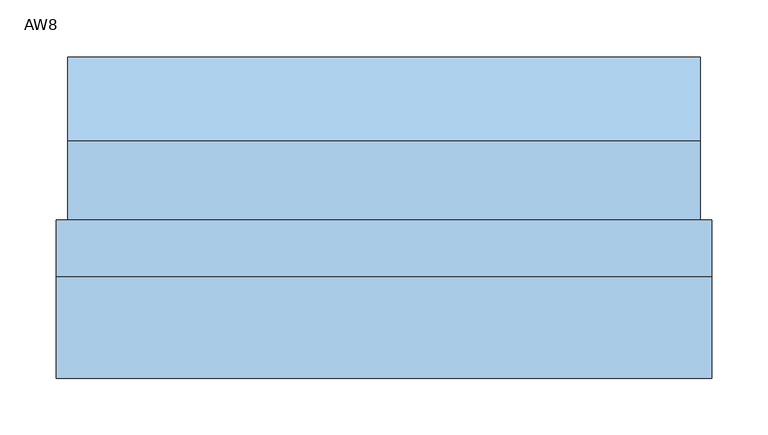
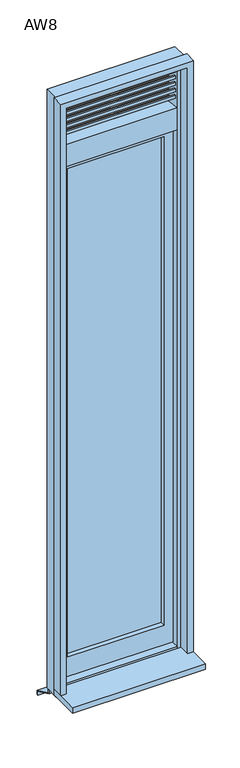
"""IFC4 building model written with IfcOpenShell, lengths in millimetres: window geometry, 営_段窓_FIX/ガラリ : AW8."""

from ifc_helpers import new_model, si_unit, frame, origin, place, context, project, spatial, polyline, outline, extrude, source, transform, mapped, element, save


def aw8_1742ed5c(model_context):
    return source(origin(), model_context, "Body", "SweptSolid", [
        extrude(outline(polyline([(70.0, 2623.2493654), (70.0, 2605.0), (65.0, 2605.0), (65.0, 2620.0), (20.0, 2640.0), (20.0, 2655.0), (25.0, 2655.0), (25.0, 2643.2493654), (70.0, 2623.2493654)])), frame((-250.0, 0.0, 0.0), z_axis=(1.0, 0.0, 0.0), x_axis=(0.0, 1.0, 0.0)), (0.0, 0.0, 1.0), 500.0),
        extrude(outline(polyline([(70.0, 2593.2493654), (70.0, 2575.0), (65.0, 2575.0), (65.0, 2590.0), (20.0, 2610.0), (20.0, 2625.0), (25.0, 2625.0), (25.0, 2613.2493654), (70.0, 2593.2493654)])), frame((-250.0, 0.0, 0.0), z_axis=(1.0, 0.0, 0.0), x_axis=(0.0, 1.0, 0.0)), (0.0, 0.0, 1.0), 500.0),
        extrude(outline(polyline([(70.0, 2563.2493654), (70.0, 2545.0), (65.0, 2545.0), (65.0, 2560.0), (20.0, 2580.0), (20.0, 2595.0), (25.0, 2595.0), (25.0, 2583.2493654), (70.0, 2563.2493654)])), frame((-250.0, 0.0, 0.0), z_axis=(1.0, 0.0, 0.0), x_axis=(0.0, 1.0, 0.0)), (0.0, 0.0, 1.0), 500.0),
        extrude(outline(polyline([(70.0, 2533.2493654), (70.0, 2515.0), (65.0, 2515.0), (65.0, 2530.0), (20.0, 2550.0), (20.0, 2565.0), (25.0, 2565.0), (25.0, 2553.2493654), (70.0, 2533.2493654)])), frame((-250.0, 0.0, 0.0), z_axis=(1.0, 0.0, 0.0), x_axis=(0.0, 1.0, 0.0)), (0.0, 0.0, 1.0), 500.0),
        extrude(outline(polyline([(70.0, 2653.2493654), (70.0, 2635.0), (65.0, 2635.0), (65.0, 2650.0), (20.0, 2670.0), (20.0, 2685.0), (25.0, 2685.0), (25.0, 2673.2493654), (70.0, 2653.2493654)])), frame((-250.0, 0.0, 0.0), z_axis=(1.0, 0.0, 0.0), x_axis=(0.0, 1.0, 0.0)), (0.0, 0.0, 1.0), 500.0),
        extrude(outline(polyline([(70.0, 2503.2493654), (70.0, 2485.0), (65.0, 2485.0), (65.0, 2500.0), (20.0, 2520.0), (20.0, 2535.0), (25.0, 2535.0), (25.0, 2523.2493654), (70.0, 2503.2493654)])), frame((-250.0, 0.0, 0.0), z_axis=(1.0, 0.0, 0.0), x_axis=(0.0, 1.0, 0.0)), (0.0, 0.0, 1.0), 500.0),
        extrude(outline(polyline([(0.0, 250.0), (2385.0, 250.0), (2385.0, -250.0), (0.0, -250.0), (0.0, 250.0)]), holes=[polyline([(90.0, 210.0), (90.0, -210.0), (2345.0, -210.0), (2345.0, 210.0), (90.0, 210.0)])]), frame((0.0, 40.0, 0.0), z_axis=(0.0, 1.0, 0.0), x_axis=(0.0, 0.0, 1.0)), (0.0, 0.0, 1.0), 30.0),
        extrude(outline(polyline([(210.0, 60.0), (-210.0, 60.0), (-210.0, 65.0), (210.0, 65.0), (210.0, 60.0)])), frame((0.0, 0.0, 90.0), z_axis=(0.0, 0.0, 1.0), x_axis=(1.0, 0.0, 0.0)), (0.0, 0.0, 1.0), 2255.0),
        extrude(outline(polyline([(290.0, -135.0), (-290.0, -135.0), (-290.0, 5.0), (290.0, 5.0), (290.0, -135.0)])), frame((0.0, 0.0, -35.0), z_axis=(0.0, 0.0, 1.0), x_axis=(1.0, 0.0, 0.0)), (0.0, 0.0, 1.0), 25.0),
        extrude(outline(polyline([(65.0, -65.0), (150.0, -105.0), (150.0, -125.0), (145.0014518, -125.0), (145.0014518, -108.1737109), (60.0, -68.1730277), (60.0, -50.0), (65.0, -50.0), (65.0, -65.0)])), frame((-280.0, 0.0, 0.0), z_axis=(1.0, 0.0, 0.0), x_axis=(0.0, 1.0, 0.0)), (0.0, 0.0, 1.0), 560.0),
        extrude(outline(polyline([(-35.0, -290.0), (-35.0, -265.0), (2695.0, -265.0), (2695.0, 265.0), (-35.0, 265.0), (-35.0, 290.0), (2720.0, 290.0), (2720.0, -290.0), (-35.0, -290.0)])), frame((0.0, -45.0, 0.0), z_axis=(0.0, 1.0, 0.0), x_axis=(0.0, 0.0, 1.0)), (0.0, 0.0, 1.0), 50.0),
        extrude(outline(polyline([(-50.0, -280.0), (-50.0, -250.0), (2685.0, -250.0), (2685.0, 250.0), (-50.0, 250.0), (-50.0, 280.0), (2715.0, 280.0), (2715.0, -280.0), (-50.0, -280.0)])), frame((0.0, 5.0, 0.0), z_axis=(0.0, 1.0, 0.0), x_axis=(0.0, 0.0, 1.0)), (0.0, 0.0, 1.0), 70.0),
        extrude(outline(polyline([(5.0, -50.0), (5.0, 0.0), (75.0, -9.3333333), (75.0, -50.0), (5.0, -50.0)])), frame((-250.0, 0.0, 0.0), z_axis=(1.0, 0.0, 0.0), x_axis=(0.0, 1.0, 0.0)), (0.0, 0.0, 1.0), 500.0),
        extrude(outline(polyline([(75.0, 2385.0), (5.0, 2385.0), (5.0, 2485.0), (75.0, 2475.0), (75.0, 2385.0)])), frame((-250.0, 0.0, 0.0), z_axis=(1.0, 0.0, 0.0), x_axis=(0.0, 1.0, 0.0)), (0.0, 0.0, 1.0), 500.0),
    ])


if __name__ == "__main__":
    model = new_model("IFC4")
    model_context = context("Model", 3, world=origin())
    ifc_project = project(units=[si_unit("LENGTHUNIT", "METRE", prefix="MILLI")], contexts=[model_context])
    site = spatial("IfcSite", under=ifc_project)
    building = spatial("IfcBuilding", under=site)
    placement = place(None, origin())
    aw8_shape = aw8_1742ed5c(model_context)
    element("IfcWindow", 1, ObjectType="営_段窓_FIX/ガラリ : AW8", at=placement, inside=building, context=model_context, shape_type="MappedRepresentation", body=[
        mapped(aw8_shape, transform((0.0, 0.0, 0.0), x_axis=(1.0, 0.0, 0.0), y_axis=(0.0, 1.0, 0.0), z_axis=(0.0, 0.0, 1.0))),
    ])
    save(model, "model.ifc")
